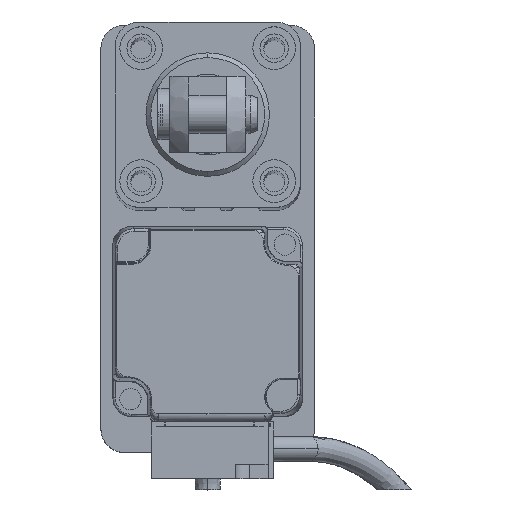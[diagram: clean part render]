
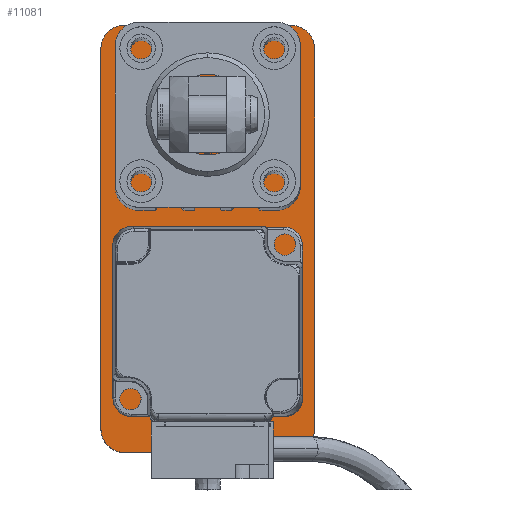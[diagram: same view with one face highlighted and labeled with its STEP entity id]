
A CAD part, top view. The second image highlights one B-rep face of the part: STEP entity #11081.
In plain terms, the highlighted planar face has unit normal (0, 0, 1).
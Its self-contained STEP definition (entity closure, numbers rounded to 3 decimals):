
#15 = CARTESIAN_POINT ( 'NONE',  ( -22.5, 40., 10. ) ) ;
#94 = LINE ( 'NONE', #9599, #19932 ) ;
#790 = CARTESIAN_POINT ( 'NONE',  ( 0., 0., 10. ) ) ;
#1079 = EDGE_LOOP ( 'NONE', ( #13674, #3087, #18629, #15343, #11765, #26793, #31890, #29016 ) ) ;
#1414 = AXIS2_PLACEMENT_3D ( 'NONE', #26277, #18136, #2958 ) ;
#1670 = CARTESIAN_POINT ( 'NONE',  ( -17.5, -40., 10. ) ) ;
#2093 = AXIS2_PLACEMENT_3D ( 'NONE', #24118, #31680, #32121 ) ;
#2793 = EDGE_CURVE ( 'NONE', #9181, #19032, #23039, .T. ) ;
#2958 = DIRECTION ( 'NONE',  ( 1., 0., 0. ) ) ;
#3087 = ORIENTED_EDGE ( 'NONE', *, *, #30878, .T. ) ;
#5271 = CARTESIAN_POINT ( 'NONE',  ( 17.5, -45., 10. ) ) ;
#6028 = PLANE ( 'NONE',  #20885 ) ;
#6697 = CARTESIAN_POINT ( 'NONE',  ( -22.5, -40., 10. ) ) ;
#7239 = FACE_OUTER_BOUND ( 'NONE', #1079, .T. ) ;
#7243 = EDGE_CURVE ( 'NONE', #19387, #8664, #26491, .T. ) ;
#7729 = CARTESIAN_POINT ( 'NONE',  ( 22.5, 45., 10. ) ) ;
#7920 = CARTESIAN_POINT ( 'NONE',  ( -17.5, 45., 10. ) ) ;
#8074 = CARTESIAN_POINT ( 'NONE',  ( 17.5, 40., 10. ) ) ;
#8664 = VERTEX_POINT ( 'NONE', #7920 ) ;
#9181 = VERTEX_POINT ( 'NONE', #26254 ) ;
#9599 = CARTESIAN_POINT ( 'NONE',  ( 22.5, -45., 10. ) ) ;
#10309 = VERTEX_POINT ( 'NONE', #6697 ) ;
#10332 = VERTEX_POINT ( 'NONE', #11558 ) ;
#10802 = CARTESIAN_POINT ( 'NONE',  ( 22.5, 40., 10. ) ) ;
#11081 = ADVANCED_FACE ( 'NONE', ( #7239 ), #6028, .T. ) ;
#11558 = CARTESIAN_POINT ( 'NONE',  ( 22.5, -40., 10. ) ) ;
#11765 = ORIENTED_EDGE ( 'NONE', *, *, #29726, .T. ) ;
#12262 = DIRECTION ( 'NONE',  ( -1., 0., 0. ) ) ;
#13621 = EDGE_CURVE ( 'NONE', #8664, #25703, #17261, .T. ) ;
#13674 = ORIENTED_EDGE ( 'NONE', *, *, #23278, .T. ) ;
#15293 = AXIS2_PLACEMENT_3D ( 'NONE', #8074, #21295, #18615 ) ;
#15343 = ORIENTED_EDGE ( 'NONE', *, *, #13621, .T. ) ;
#16638 = DIRECTION ( 'NONE',  ( 1., 0., 0. ) ) ;
#17261 = CIRCLE ( 'NONE', #1414, 5. ) ;
#17319 = EDGE_CURVE ( 'NONE', #10309, #9181, #30740, .T. ) ;
#18136 = DIRECTION ( 'NONE',  ( 0., 0., 1. ) ) ;
#18615 = DIRECTION ( 'NONE',  ( 1., 0., 0. ) ) ;
#18629 = ORIENTED_EDGE ( 'NONE', *, *, #7243, .T. ) ;
#19032 = VERTEX_POINT ( 'NONE', #5271 ) ;
#19387 = VERTEX_POINT ( 'NONE', #24659 ) ;
#19615 = VECTOR ( 'NONE', #12262, 1000. ) ;
#19932 = VECTOR ( 'NONE', #33108, 1000. ) ;
#20138 = AXIS2_PLACEMENT_3D ( 'NONE', #1670, #27588, #33016 ) ;
#20885 = AXIS2_PLACEMENT_3D ( 'NONE', #790, #24222, #16638 ) ;
#21295 = DIRECTION ( 'NONE',  ( 0., 0., 1. ) ) ;
#22061 = CIRCLE ( 'NONE', #15293, 5. ) ;
#22313 = CARTESIAN_POINT ( 'NONE',  ( -22.5, -45., 10. ) ) ;
#23039 = LINE ( 'NONE', #25332, #23873 ) ;
#23278 = EDGE_CURVE ( 'NONE', #10332, #31000, #94, .T. ) ;
#23561 = CIRCLE ( 'NONE', #2093, 5. ) ;
#23873 = VECTOR ( 'NONE', #28252, 1000. ) ;
#24118 = CARTESIAN_POINT ( 'NONE',  ( 17.5, -40., 10. ) ) ;
#24222 = DIRECTION ( 'NONE',  ( 0., 0., 1. ) ) ;
#24598 = DIRECTION ( 'NONE',  ( 0., -1., 0. ) ) ;
#24659 = CARTESIAN_POINT ( 'NONE',  ( 17.5, 45., 10. ) ) ;
#24974 = LINE ( 'NONE', #22313, #26165 ) ;
#25332 = CARTESIAN_POINT ( 'NONE',  ( 22.5, -45., 10. ) ) ;
#25703 = VERTEX_POINT ( 'NONE', #15 ) ;
#26165 = VECTOR ( 'NONE', #24598, 1000. ) ;
#26254 = CARTESIAN_POINT ( 'NONE',  ( -17.5, -45., 10. ) ) ;
#26277 = CARTESIAN_POINT ( 'NONE',  ( -17.5, 40., 10. ) ) ;
#26491 = LINE ( 'NONE', #7729, #19615 ) ;
#26793 = ORIENTED_EDGE ( 'NONE', *, *, #17319, .T. ) ;
#27588 = DIRECTION ( 'NONE',  ( 0., 0., 1. ) ) ;
#28252 = DIRECTION ( 'NONE',  ( 1., 0., 0. ) ) ;
#29016 = ORIENTED_EDGE ( 'NONE', *, *, #33162, .T. ) ;
#29726 = EDGE_CURVE ( 'NONE', #25703, #10309, #24974, .T. ) ;
#30740 = CIRCLE ( 'NONE', #20138, 5. ) ;
#30878 = EDGE_CURVE ( 'NONE', #31000, #19387, #22061, .T. ) ;
#31000 = VERTEX_POINT ( 'NONE', #10802 ) ;
#31680 = DIRECTION ( 'NONE',  ( 0., 0., 1. ) ) ;
#31890 = ORIENTED_EDGE ( 'NONE', *, *, #2793, .T. ) ;
#32121 = DIRECTION ( 'NONE',  ( 1., 0., 0. ) ) ;
#33016 = DIRECTION ( 'NONE',  ( 1., 0., 0. ) ) ;
#33108 = DIRECTION ( 'NONE',  ( 0., 1., 0. ) ) ;
#33162 = EDGE_CURVE ( 'NONE', #19032, #10332, #23561, .T. ) ;
